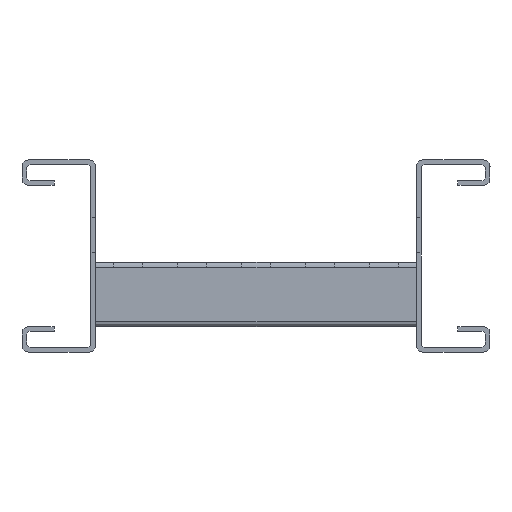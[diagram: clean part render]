
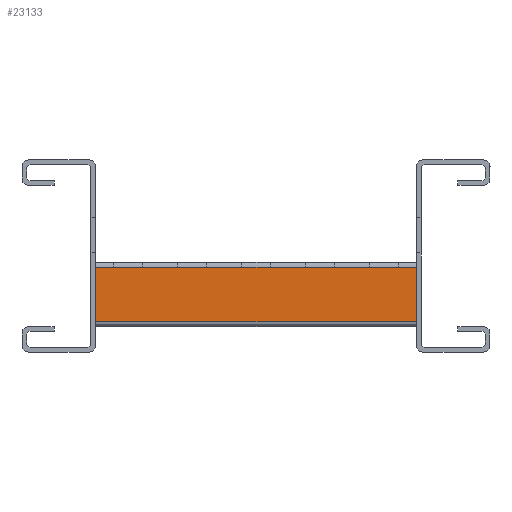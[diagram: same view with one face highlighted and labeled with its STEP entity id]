
A CAD part, left-side view. The second image highlights one B-rep face of the part: STEP entity #23133.
In plain terms, the highlighted planar face has unit normal (-1, 0, 0) as drawn and (0, 1, 0) by its records, which use the part's own axes.
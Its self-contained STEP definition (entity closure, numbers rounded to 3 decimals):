
#1699=FACE_OUTER_BOUND('',#3247,.T.);
#3247=EDGE_LOOP('',(#20980,#20981,#20982,#20983));
#6357=LINE('',#35834,#9437);
#6363=LINE('',#35851,#9443);
#6404=LINE('',#35976,#9484);
#6405=LINE('',#35978,#9485);
#9437=VECTOR('',#29476,304.8);
#9443=VECTOR('',#29488,304.8);
#9484=VECTOR('',#29597,304.8);
#9485=VECTOR('',#29600,304.8);
#11552=VERTEX_POINT('',#35831);
#11553=VERTEX_POINT('',#35833);
#11560=VERTEX_POINT('',#35848);
#11561=VERTEX_POINT('',#35850);
#14672=EDGE_CURVE('',#11552,#11553,#6357,.T.);
#14680=EDGE_CURVE('',#11560,#11561,#6363,.T.);
#14744=EDGE_CURVE('',#11561,#11552,#6404,.T.);
#14745=EDGE_CURVE('',#11560,#11553,#6405,.T.);
#20980=ORIENTED_EDGE('',*,*,#14672,.F.);
#20981=ORIENTED_EDGE('',*,*,#14744,.F.);
#20982=ORIENTED_EDGE('',*,*,#14680,.F.);
#20983=ORIENTED_EDGE('',*,*,#14745,.T.);
#22086=PLANE('',#24274);
#23133=ADVANCED_FACE('',(#1699),#22086,.T.);
#24274=AXIS2_PLACEMENT_3D('',#35977,#29598,#29599);
#29476=DIRECTION('',(0.,0.,-1.));
#29488=DIRECTION('',(0.,0.,1.));
#29597=DIRECTION('',(-1.,0.,0.));
#29598=DIRECTION('center_axis',(0.,1.,0.));
#29599=DIRECTION('ref_axis',(1.,0.,0.));
#29600=DIRECTION('',(-1.,0.,0.));
#35831=CARTESIAN_POINT('',(0.,20.,8.5));
#35833=CARTESIAN_POINT('',(0.,20.,-8.5));
#35834=CARTESIAN_POINT('',(0.,20.,8.5));
#35848=CARTESIAN_POINT('',(100.,20.,-8.5));
#35850=CARTESIAN_POINT('',(100.,20.,8.5));
#35851=CARTESIAN_POINT('',(100.,20.,-8.5));
#35976=CARTESIAN_POINT('',(0.,20.,8.5));
#35977=CARTESIAN_POINT('Origin',(0.,20.,8.5));
#35978=CARTESIAN_POINT('',(0.,20.,-8.5));
